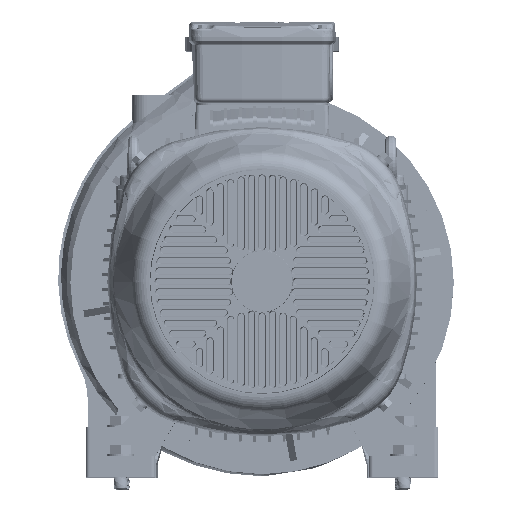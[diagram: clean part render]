
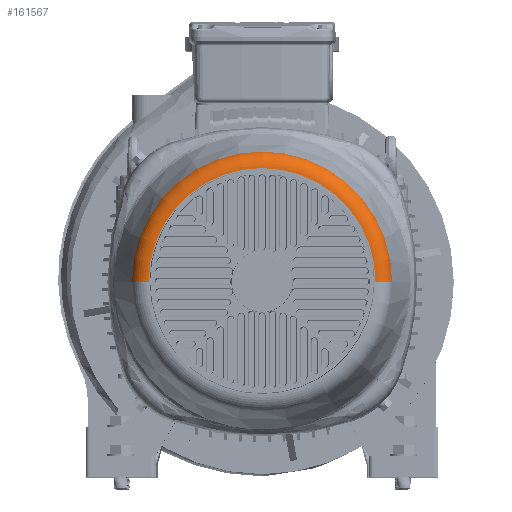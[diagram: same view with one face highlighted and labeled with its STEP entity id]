
A CAD part, top view. The second image highlights one B-rep face of the part: STEP entity #161567.
In plain terms, the highlighted toroidal (fillet/blend) face has major radius 162.695 mm and minor radius 25 mm.
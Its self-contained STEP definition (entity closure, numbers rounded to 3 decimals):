
#4904 = DIRECTION ( 'NONE',  ( -1., 0., 0. ) ) ;
#6875 = AXIS2_PLACEMENT_3D ( 'NONE', #69433, #59062, #161374 ) ;
#7178 = FACE_OUTER_BOUND ( 'NONE', #15373, .T. ) ;
#8889 = VERTEX_POINT ( 'NONE', #84978 ) ;
#13269 = CARTESIAN_POINT ( 'NONE',  ( 0., 0., -421.725 ) ) ;
#15362 = CIRCLE ( 'NONE', #136202, 186.471 ) ;
#15373 = EDGE_LOOP ( 'NONE', ( #109466, #49788, #167977, #69309 ) ) ;
#18883 = DIRECTION ( 'NONE',  ( 0., -1., 0. ) ) ;
#26588 = TOROIDAL_SURFACE ( 'NONE', #48458, 162.695, 25. ) ;
#40088 = EDGE_CURVE ( 'NONE', #8889, #157600, #15362, .T. ) ;
#46965 = CARTESIAN_POINT ( 'NONE',  ( -162.695, 0., -414. ) ) ;
#48458 = AXIS2_PLACEMENT_3D ( 'NONE', #58774, #57094, #72518 ) ;
#49788 = ORIENTED_EDGE ( 'NONE', *, *, #94138, .T. ) ;
#50398 = EDGE_CURVE ( 'NONE', #123333, #8889, #132152, .T. ) ;
#52814 = DIRECTION ( 'NONE',  ( 1., 0., 0. ) ) ;
#57094 = DIRECTION ( 'NONE',  ( 0., 0., 1. ) ) ;
#57593 = DIRECTION ( 'NONE',  ( 0., 0., -1. ) ) ;
#58774 = CARTESIAN_POINT ( 'NONE',  ( 0., 0., -414. ) ) ;
#59062 = DIRECTION ( 'NONE',  ( 0., 0., 1. ) ) ;
#69309 = ORIENTED_EDGE ( 'NONE', *, *, #50398, .F. ) ;
#69433 = CARTESIAN_POINT ( 'NONE',  ( 0., 0., -439. ) ) ;
#71729 = EDGE_CURVE ( 'NONE', #123333, #93117, #119426, .T. ) ;
#72518 = DIRECTION ( 'NONE',  ( 1., 0., 0. ) ) ;
#72779 = DIRECTION ( 'NONE',  ( 0., 1., 0. ) ) ;
#74079 = AXIS2_PLACEMENT_3D ( 'NONE', #46965, #72779, #4904 ) ;
#74323 = CARTESIAN_POINT ( 'NONE',  ( -162.695, 0., -439. ) ) ;
#79613 = CIRCLE ( 'NONE', #74079, 25. ) ;
#84978 = CARTESIAN_POINT ( 'NONE',  ( 186.471, 0., -421.725 ) ) ;
#91156 = CARTESIAN_POINT ( 'NONE',  ( -186.471, 0., -421.725 ) ) ;
#93117 = VERTEX_POINT ( 'NONE', #74323 ) ;
#94138 = EDGE_CURVE ( 'NONE', #93117, #157600, #79613, .T. ) ;
#109466 = ORIENTED_EDGE ( 'NONE', *, *, #71729, .T. ) ;
#119426 = CIRCLE ( 'NONE', #6875, 162.695 ) ;
#122083 = CARTESIAN_POINT ( 'NONE',  ( 162.695, 0., -414. ) ) ;
#123333 = VERTEX_POINT ( 'NONE', #150232 ) ;
#131021 = DIRECTION ( 'NONE',  ( 0., 0., 1. ) ) ;
#132152 = CIRCLE ( 'NONE', #154150, 25. ) ;
#136202 = AXIS2_PLACEMENT_3D ( 'NONE', #13269, #131021, #52814 ) ;
#150232 = CARTESIAN_POINT ( 'NONE',  ( 162.695, 0., -439. ) ) ;
#154150 = AXIS2_PLACEMENT_3D ( 'NONE', #122083, #18883, #57593 ) ;
#157600 = VERTEX_POINT ( 'NONE', #91156 ) ;
#161374 = DIRECTION ( 'NONE',  ( 1., 0., 0. ) ) ;
#161567 = ADVANCED_FACE ( 'NONE', ( #7178 ), #26588, .T. ) ;
#167977 = ORIENTED_EDGE ( 'NONE', *, *, #40088, .F. ) ;
